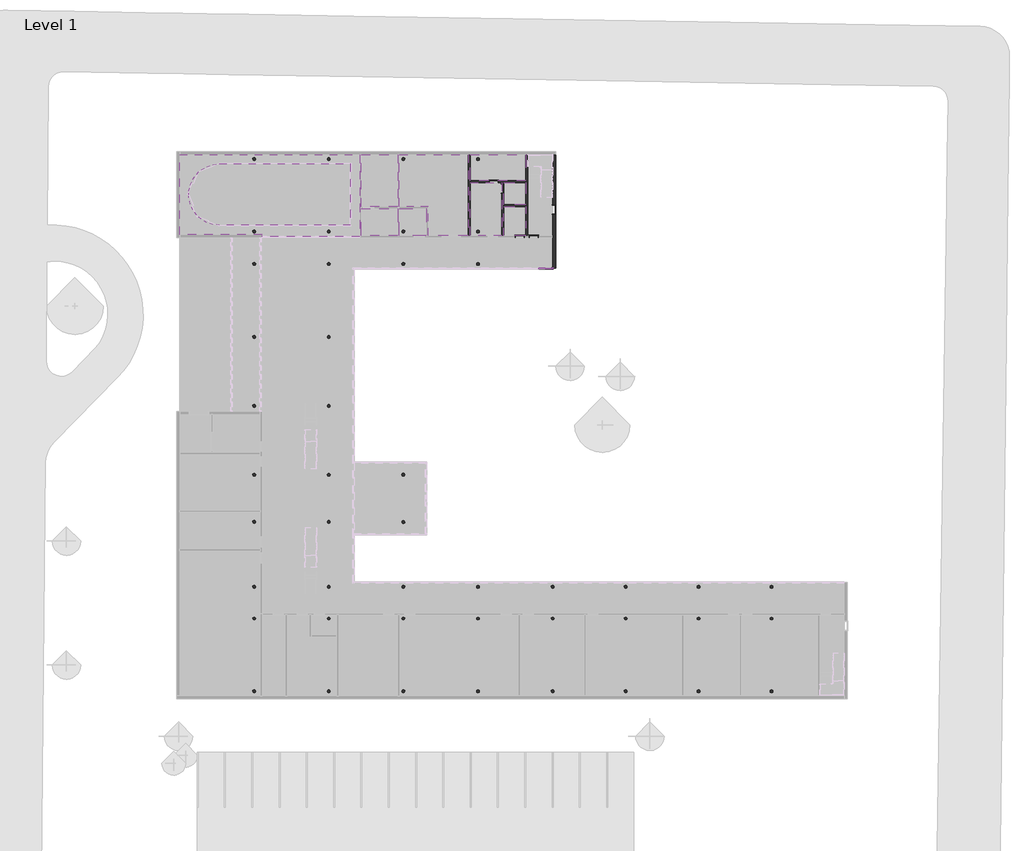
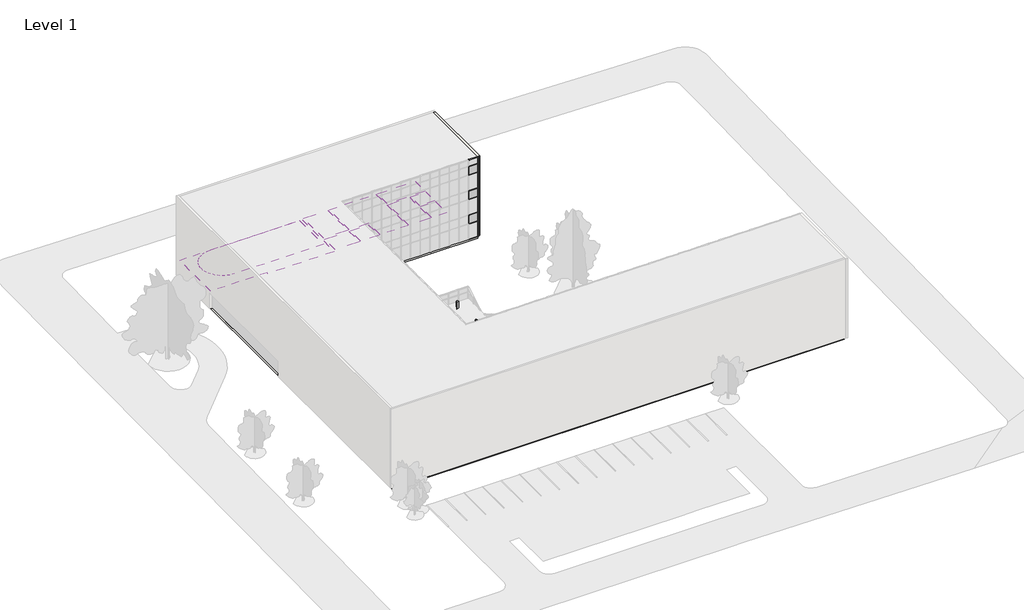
# One storey, part 17 of 23: 46 columns, 15 members, 10 coverings, 6 walls, 5 doors, 3 plates, 1 slab.
"""IFC4 building model written with IfcOpenShell, lengths in millimetres."""

from ifc_helpers import new_model, si_unit, point, frame, frame_2d, origin, origin_with_axes, place, context, project, spatial, polyline, circle_curve, trimmed, segment, composite_curve, outline, extrude, faceted_brep, transform, mapped, element, save
from components import m_concrete_round_column_300mm_df790aaa, door_0915mm_x_2134mm_2aa27b83, door_0915mm_x_2134mm_3fa07aa3, door_0915mm_x_2134mm_b19b82af, quad_corner_mullion_quad_mullion_1_893af7fe, quad_corner_mullion_quad_mullion_1_37ac55ff, quad_corner_mullion_quad_mullion_1_d5379b67, rectangular_mullion_50mm_x_150mm_4d4922e7, rectangular_mullion_50mm_x_150mm_da00b109, system_panel_solid_b23a9ee6

model = new_model("IFC4")

# Units and contexts
model_context = context("Model", 3, world=origin())
ifc_project = project(units=[si_unit("LENGTHUNIT", "METRE", prefix="MILLI")], contexts=[model_context])

# Site, building, storey
site = spatial("IfcSite", under=ifc_project)
building = spatial("IfcBuilding", under=site)
storey = spatial("IfcBuildingStorey", under=building, Name="Level 1", Elevation=0.0)

# Columns
placement = place(None, origin())
element("IfcColumn", 1, ObjectType="M_Concrete-Round-Column : 300mm", at=placement, inside=storey, context=model_context, shape_type="SweptSolid", body=[
    extrude(outline(composite_curve([segment(trimmed(circle_curve(frame_2d((12436.4044804, -1309.4607941)), 150.0), [point((12586.4044804, -1309.4607941))], [point((12286.4044804, -1309.4607941))], False, "CARTESIAN"), True, "CONTINUOUS"), segment(trimmed(circle_curve(frame_2d((12436.4044804, -1309.4607941)), 150.0), [point((12286.4044804, -1309.4607941))], [point((12586.4044804, -1309.4607941))], False, "CARTESIAN"), True, "CONTINUOUS")], self_intersect=False)), origin_with_axes(), (0.0, 0.0, 1.0), 7634.4266858),
])
element("IfcColumn", 2, ObjectType="M_Concrete-Round-Column : 300mm", at=placement, inside=storey, context=model_context, shape_type="SweptSolid", body=[
    extrude(outline(composite_curve([segment(trimmed(circle_curve(frame_2d((12436.4044804, -6063.8611817)), 150.0), [point((12586.4044804, -6063.8611817))], [point((12286.4044804, -6063.8611817))], False, "CARTESIAN"), True, "CONTINUOUS"), segment(trimmed(circle_curve(frame_2d((12436.4044804, -6063.8611817)), 150.0), [point((12286.4044804, -6063.8611817))], [point((12586.4044804, -6063.8611817))], False, "CARTESIAN"), True, "CONTINUOUS")], self_intersect=False)), origin_with_axes(), (0.0, 0.0, 1.0), 7634.4266858),
])
m_concrete_round_column_300mm_shape = m_concrete_round_column_300mm_df790aaa(model_context)
element("IfcColumn", 3, ObjectType="M_Concrete-Round-Column : 300mm", at=placement, inside=storey, context=model_context, shape_type="MappedRepresentation", body=[
    mapped(m_concrete_round_column_300mm_shape, transform((-2539.0909489, 23121.5799804, 0.0), x_axis=(-1.0, 0.0, 0.0), y_axis=(0.0, -1.0, 0.0), z_axis=(0.0, 0.0, 1.0))),
])
element("IfcColumn", 4, ObjectType="M_Concrete-Round-Column : 300mm", at=placement, inside=storey, context=model_context, shape_type="MappedRepresentation", body=[
    mapped(m_concrete_round_column_300mm_shape, transform((-2539.0909489, 12506.7392059, 0.0), x_axis=(-1.0, 0.0, 0.0), y_axis=(0.0, -1.0, 0.0), z_axis=(0.0, 0.0, 1.0))),
])
element("IfcColumn", 5, ObjectType="M_Concrete-Round-Column : 300mm", at=placement, inside=storey, context=model_context, shape_type="MappedRepresentation", body=[
    mapped(m_concrete_round_column_300mm_shape, transform((-2539.0909489, 5598.6392059, 0.0), x_axis=(-1.0, 0.0, 0.0), y_axis=(0.0, -1.0, 0.0), z_axis=(0.0, 0.0, 1.0))),
])
element("IfcColumn", 6, ObjectType="M_Concrete-Round-Column : 300mm", at=placement, inside=storey, context=model_context, shape_type="MappedRepresentation", body=[
    mapped(m_concrete_round_column_300mm_shape, transform((-2539.0909489, -1309.4607941, 0.0), x_axis=(-1.0, 0.0, 0.0), y_axis=(0.0, -1.0, 0.0), z_axis=(0.0, 0.0, 1.0))),
])
element("IfcColumn", 7, ObjectType="M_Concrete-Round-Column : 300mm", at=placement, inside=storey, context=model_context, shape_type="MappedRepresentation", body=[
    mapped(m_concrete_round_column_300mm_shape, transform((-2539.0909489, -6063.8611817, 0.0), x_axis=(-1.0, 0.0, 0.0), y_axis=(0.0, -1.0, 0.0), z_axis=(0.0, 0.0, 1.0))),
])
element("IfcColumn", 8, ObjectType="M_Concrete-Round-Column : 300mm", at=placement, inside=storey, context=model_context, shape_type="MappedRepresentation", body=[
    mapped(m_concrete_round_column_300mm_shape, transform((-2539.0909489, -15754.7006057, 0.0), x_axis=(-1.0, 0.0, 0.0), y_axis=(0.0, -1.0, 0.0), z_axis=(0.0, 0.0, 1.0))),
])
element("IfcColumn", 9, ObjectType="M_Concrete-Round-Column : 300mm", at=placement, inside=storey, context=model_context, shape_type="MappedRepresentation", body=[
    mapped(m_concrete_round_column_300mm_shape, transform((-2539.0909489, 30368.5799804, 0.0), x_axis=(-1.0, 0.0, 0.0), y_axis=(0.0, -1.0, 0.0), z_axis=(0.0, 0.0, 1.0))),
])
element("IfcColumn", 10, ObjectType="M_Concrete-Round-Column : 300mm", at=placement, inside=storey, context=model_context, shape_type="MappedRepresentation", body=[
    mapped(m_concrete_round_column_300mm_shape, transform((-2539.0909489, 19864.8392059, 0.0), x_axis=(-1.0, 0.0, 0.0), y_axis=(0.0, -1.0, 0.0), z_axis=(0.0, 0.0, 1.0))),
])
element("IfcColumn", 11, ObjectType="M_Concrete-Round-Column : 300mm", at=placement, inside=storey, context=model_context, shape_type="MappedRepresentation", body=[
    mapped(m_concrete_round_column_300mm_shape, transform((-2539.0909489, -12582.3615692, 0.0), x_axis=(-1.0, 0.0, 0.0), y_axis=(0.0, -1.0, 0.0), z_axis=(0.0, 0.0, 1.0))),
])
element("IfcColumn", 12, ObjectType="M_Concrete-Round-Column : 300mm", at=placement, inside=storey, context=model_context, shape_type="MappedRepresentation", body=[
    mapped(m_concrete_round_column_300mm_shape, transform((-2539.0909489, -23060.7006057, 0.0), x_axis=(-1.0, 0.0, 0.0), y_axis=(0.0, -1.0, 0.0), z_axis=(0.0, 0.0, 1.0))),
])
element("IfcColumn", 13, ObjectType="M_Concrete-Round-Column : 300mm", at=placement, inside=storey, context=model_context, shape_type="MappedRepresentation", body=[
    mapped(m_concrete_round_column_300mm_shape, transform((4948.6567657, 23121.5799804, 0.0), x_axis=(-1.0, 0.0, 0.0), y_axis=(0.0, -1.0, 0.0), z_axis=(0.0, 0.0, 1.0))),
])
element("IfcColumn", 14, ObjectType="M_Concrete-Round-Column : 300mm", at=placement, inside=storey, context=model_context, shape_type="MappedRepresentation", body=[
    mapped(m_concrete_round_column_300mm_shape, transform((4948.6567657, 12506.7392059, 0.0), x_axis=(-1.0, 0.0, 0.0), y_axis=(0.0, -1.0, 0.0), z_axis=(0.0, 0.0, 1.0))),
])
element("IfcColumn", 15, ObjectType="M_Concrete-Round-Column : 300mm", at=placement, inside=storey, context=model_context, shape_type="MappedRepresentation", body=[
    mapped(m_concrete_round_column_300mm_shape, transform((4948.6567657, 5598.6392059, 0.0), x_axis=(-1.0, 0.0, 0.0), y_axis=(0.0, -1.0, 0.0), z_axis=(0.0, 0.0, 1.0))),
])
element("IfcColumn", 16, ObjectType="M_Concrete-Round-Column : 300mm", at=placement, inside=storey, context=model_context, shape_type="MappedRepresentation", body=[
    mapped(m_concrete_round_column_300mm_shape, transform((4948.6567657, -1309.4607941, 0.0), x_axis=(-1.0, 0.0, 0.0), y_axis=(0.0, -1.0, 0.0), z_axis=(0.0, 0.0, 1.0))),
])
element("IfcColumn", 17, ObjectType="M_Concrete-Round-Column : 300mm", at=placement, inside=storey, context=model_context, shape_type="MappedRepresentation", body=[
    mapped(m_concrete_round_column_300mm_shape, transform((4948.6567657, -6063.8611817, 0.0), x_axis=(-1.0, 0.0, 0.0), y_axis=(0.0, -1.0, 0.0), z_axis=(0.0, 0.0, 1.0))),
])
element("IfcColumn", 18, ObjectType="M_Concrete-Round-Column : 300mm", at=placement, inside=storey, context=model_context, shape_type="MappedRepresentation", body=[
    mapped(m_concrete_round_column_300mm_shape, transform((4948.6567657, -15754.7006057, 0.0), x_axis=(-1.0, 0.0, 0.0), y_axis=(0.0, -1.0, 0.0), z_axis=(0.0, 0.0, 1.0))),
])
element("IfcColumn", 19, ObjectType="M_Concrete-Round-Column : 300mm", at=placement, inside=storey, context=model_context, shape_type="MappedRepresentation", body=[
    mapped(m_concrete_round_column_300mm_shape, transform((4948.6567657, 30368.5799804, 0.0), x_axis=(-1.0, 0.0, 0.0), y_axis=(0.0, -1.0, 0.0), z_axis=(0.0, 0.0, 1.0))),
])
element("IfcColumn", 20, ObjectType="M_Concrete-Round-Column : 300mm", at=placement, inside=storey, context=model_context, shape_type="MappedRepresentation", body=[
    mapped(m_concrete_round_column_300mm_shape, transform((4948.6567657, 19864.8392059, 0.0), x_axis=(-1.0, 0.0, 0.0), y_axis=(0.0, -1.0, 0.0), z_axis=(0.0, 0.0, 1.0))),
])
element("IfcColumn", 21, ObjectType="M_Concrete-Round-Column : 300mm", at=placement, inside=storey, context=model_context, shape_type="MappedRepresentation", body=[
    mapped(m_concrete_round_column_300mm_shape, transform((4948.6567657, -12582.3615692, 0.0), x_axis=(-1.0, 0.0, 0.0), y_axis=(0.0, -1.0, 0.0), z_axis=(0.0, 0.0, 1.0))),
])
element("IfcColumn", 22, ObjectType="M_Concrete-Round-Column : 300mm", at=placement, inside=storey, context=model_context, shape_type="MappedRepresentation", body=[
    mapped(m_concrete_round_column_300mm_shape, transform((4948.6567657, -23060.7006057, 0.0), x_axis=(-1.0, 0.0, 0.0), y_axis=(0.0, -1.0, 0.0), z_axis=(0.0, 0.0, 1.0))),
])
element("IfcColumn", 23, ObjectType="M_Concrete-Round-Column : 300mm", at=placement, inside=storey, context=model_context, shape_type="MappedRepresentation", body=[
    mapped(m_concrete_round_column_300mm_shape, transform((12436.4044804, 23121.5799804, 0.0), x_axis=(-1.0, 0.0, 0.0), y_axis=(0.0, -1.0, 0.0), z_axis=(0.0, 0.0, 1.0))),
])
element("IfcColumn", 24, ObjectType="M_Concrete-Round-Column : 300mm", at=placement, inside=storey, context=model_context, shape_type="MappedRepresentation", body=[
    mapped(m_concrete_round_column_300mm_shape, transform((12436.4044804, -15754.7006057, 0.0), x_axis=(-1.0, 0.0, 0.0), y_axis=(0.0, -1.0, 0.0), z_axis=(0.0, 0.0, 1.0))),
])
element("IfcColumn", 25, ObjectType="M_Concrete-Round-Column : 300mm", at=placement, inside=storey, context=model_context, shape_type="MappedRepresentation", body=[
    mapped(m_concrete_round_column_300mm_shape, transform((12436.4044804, 30368.5799804, 0.0), x_axis=(-1.0, 0.0, 0.0), y_axis=(0.0, -1.0, 0.0), z_axis=(0.0, 0.0, 1.0))),
])
element("IfcColumn", 26, ObjectType="M_Concrete-Round-Column : 300mm", at=placement, inside=storey, context=model_context, shape_type="MappedRepresentation", body=[
    mapped(m_concrete_round_column_300mm_shape, transform((12436.4044804, 19864.8392059, 0.0), x_axis=(-1.0, 0.0, 0.0), y_axis=(0.0, -1.0, 0.0), z_axis=(0.0, 0.0, 1.0))),
])
element("IfcColumn", 27, ObjectType="M_Concrete-Round-Column : 300mm", at=placement, inside=storey, context=model_context, shape_type="MappedRepresentation", body=[
    mapped(m_concrete_round_column_300mm_shape, transform((12436.4044804, -12582.3615692, 0.0), x_axis=(-1.0, 0.0, 0.0), y_axis=(0.0, -1.0, 0.0), z_axis=(0.0, 0.0, 1.0))),
])
element("IfcColumn", 28, ObjectType="M_Concrete-Round-Column : 300mm", at=placement, inside=storey, context=model_context, shape_type="MappedRepresentation", body=[
    mapped(m_concrete_round_column_300mm_shape, transform((12436.4044804, -23060.7006057, 0.0), x_axis=(-1.0, 0.0, 0.0), y_axis=(0.0, -1.0, 0.0), z_axis=(0.0, 0.0, 1.0))),
])
element("IfcColumn", 29, ObjectType="M_Concrete-Round-Column : 300mm", at=placement, inside=storey, context=model_context, shape_type="MappedRepresentation", body=[
    mapped(m_concrete_round_column_300mm_shape, transform((19924.152195, 23121.5799804, 0.0), x_axis=(-1.0, 0.0, 0.0), y_axis=(0.0, -1.0, 0.0), z_axis=(0.0, 0.0, 1.0))),
])
element("IfcColumn", 30, ObjectType="M_Concrete-Round-Column : 300mm", at=placement, inside=storey, context=model_context, shape_type="MappedRepresentation", body=[
    mapped(m_concrete_round_column_300mm_shape, transform((19924.152195, -15754.7006057, 0.0), x_axis=(-1.0, 0.0, 0.0), y_axis=(0.0, -1.0, 0.0), z_axis=(0.0, 0.0, 1.0))),
])
element("IfcColumn", 31, ObjectType="M_Concrete-Round-Column : 300mm", at=placement, inside=storey, context=model_context, shape_type="MappedRepresentation", body=[
    mapped(m_concrete_round_column_300mm_shape, transform((19924.152195, 30368.5799804, 0.0), x_axis=(-1.0, 0.0, 0.0), y_axis=(0.0, -1.0, 0.0), z_axis=(0.0, 0.0, 1.0))),
])
element("IfcColumn", 32, ObjectType="M_Concrete-Round-Column : 300mm", at=placement, inside=storey, context=model_context, shape_type="MappedRepresentation", body=[
    mapped(m_concrete_round_column_300mm_shape, transform((19924.152195, 19864.8392059, 0.0), x_axis=(-1.0, 0.0, 0.0), y_axis=(0.0, -1.0, 0.0), z_axis=(0.0, 0.0, 1.0))),
])
element("IfcColumn", 33, ObjectType="M_Concrete-Round-Column : 300mm", at=placement, inside=storey, context=model_context, shape_type="MappedRepresentation", body=[
    mapped(m_concrete_round_column_300mm_shape, transform((19924.152195, -12582.3615692, 0.0), x_axis=(-1.0, 0.0, 0.0), y_axis=(0.0, -1.0, 0.0), z_axis=(0.0, 0.0, 1.0))),
])
element("IfcColumn", 34, ObjectType="M_Concrete-Round-Column : 300mm", at=placement, inside=storey, context=model_context, shape_type="MappedRepresentation", body=[
    mapped(m_concrete_round_column_300mm_shape, transform((19924.152195, -23060.7006057, 0.0), x_axis=(-1.0, 0.0, 0.0), y_axis=(0.0, -1.0, 0.0), z_axis=(0.0, 0.0, 1.0))),
])
element("IfcColumn", 35, ObjectType="M_Concrete-Round-Column : 300mm", at=placement, inside=storey, context=model_context, shape_type="MappedRepresentation", body=[
    mapped(m_concrete_round_column_300mm_shape, transform((27411.8999097, -15754.7006057, 0.0), x_axis=(-1.0, 0.0, 0.0), y_axis=(0.0, -1.0, 0.0), z_axis=(0.0, 0.0, 1.0))),
])
element("IfcColumn", 36, ObjectType="M_Concrete-Round-Column : 300mm", at=placement, inside=storey, context=model_context, shape_type="MappedRepresentation", body=[
    mapped(m_concrete_round_column_300mm_shape, transform((27411.8999097, -12582.3615692, 0.0), x_axis=(-1.0, 0.0, 0.0), y_axis=(0.0, -1.0, 0.0), z_axis=(0.0, 0.0, 1.0))),
])
element("IfcColumn", 37, ObjectType="M_Concrete-Round-Column : 300mm", at=placement, inside=storey, context=model_context, shape_type="MappedRepresentation", body=[
    mapped(m_concrete_round_column_300mm_shape, transform((27411.8999097, -23060.7006057, 0.0), x_axis=(-1.0, 0.0, 0.0), y_axis=(0.0, -1.0, 0.0), z_axis=(0.0, 0.0, 1.0))),
])
element("IfcColumn", 38, ObjectType="M_Concrete-Round-Column : 300mm", at=placement, inside=storey, context=model_context, shape_type="MappedRepresentation", body=[
    mapped(m_concrete_round_column_300mm_shape, transform((34733.7042668, -15754.7006057, 0.0), x_axis=(-1.0, 0.0, 0.0), y_axis=(0.0, -1.0, 0.0), z_axis=(0.0, 0.0, 1.0))),
])
element("IfcColumn", 39, ObjectType="M_Concrete-Round-Column : 300mm", at=placement, inside=storey, context=model_context, shape_type="MappedRepresentation", body=[
    mapped(m_concrete_round_column_300mm_shape, transform((34733.7042668, -12582.3615692, 0.0), x_axis=(-1.0, 0.0, 0.0), y_axis=(0.0, -1.0, 0.0), z_axis=(0.0, 0.0, 1.0))),
])
element("IfcColumn", 40, ObjectType="M_Concrete-Round-Column : 300mm", at=placement, inside=storey, context=model_context, shape_type="MappedRepresentation", body=[
    mapped(m_concrete_round_column_300mm_shape, transform((34733.7042668, -23060.7006057, 0.0), x_axis=(-1.0, 0.0, 0.0), y_axis=(0.0, -1.0, 0.0), z_axis=(0.0, 0.0, 1.0))),
])
element("IfcColumn", 41, ObjectType="M_Concrete-Round-Column : 300mm", at=placement, inside=storey, context=model_context, shape_type="MappedRepresentation", body=[
    mapped(m_concrete_round_column_300mm_shape, transform((42055.5086239, -15754.7006057, 0.0), x_axis=(-1.0, 0.0, 0.0), y_axis=(0.0, -1.0, 0.0), z_axis=(0.0, 0.0, 1.0))),
])
element("IfcColumn", 42, ObjectType="M_Concrete-Round-Column : 300mm", at=placement, inside=storey, context=model_context, shape_type="MappedRepresentation", body=[
    mapped(m_concrete_round_column_300mm_shape, transform((42055.5086239, -12582.3615692, 0.0), x_axis=(-1.0, 0.0, 0.0), y_axis=(0.0, -1.0, 0.0), z_axis=(0.0, 0.0, 1.0))),
])
element("IfcColumn", 43, ObjectType="M_Concrete-Round-Column : 300mm", at=placement, inside=storey, context=model_context, shape_type="MappedRepresentation", body=[
    mapped(m_concrete_round_column_300mm_shape, transform((42055.5086239, -23060.7006057, 0.0), x_axis=(-1.0, 0.0, 0.0), y_axis=(0.0, -1.0, 0.0), z_axis=(0.0, 0.0, 1.0))),
])
element("IfcColumn", 44, ObjectType="M_Concrete-Round-Column : 300mm", at=placement, inside=storey, context=model_context, shape_type="MappedRepresentation", body=[
    mapped(m_concrete_round_column_300mm_shape, transform((49377.3129811, -15754.7006057, 0.0), x_axis=(-1.0, 0.0, 0.0), y_axis=(0.0, -1.0, 0.0), z_axis=(0.0, 0.0, 1.0))),
])
element("IfcColumn", 45, ObjectType="M_Concrete-Round-Column : 300mm", at=placement, inside=storey, context=model_context, shape_type="MappedRepresentation", body=[
    mapped(m_concrete_round_column_300mm_shape, transform((49377.3129811, -12582.3615692, 0.0), x_axis=(-1.0, 0.0, 0.0), y_axis=(0.0, -1.0, 0.0), z_axis=(0.0, 0.0, 1.0))),
])
element("IfcColumn", 46, ObjectType="M_Concrete-Round-Column : 300mm", at=placement, inside=storey, context=model_context, shape_type="MappedRepresentation", body=[
    mapped(m_concrete_round_column_300mm_shape, transform((49377.3129811, -23060.7006057, 0.0), x_axis=(-1.0, 0.0, 0.0), y_axis=(0.0, -1.0, 0.0), z_axis=(0.0, 0.0, 1.0))),
])

# Coverings
element("IfcCovering", 47, ObjectType="600 x 1200mm grid", at=placement, inside=storey, context=model_context, shape_type="SweptSolid", body=[
    extrude(outline(polyline([(8231.5010724, 30818.5799804), (11847.5010724, 30818.5799804), (11847.5010724, 25612.5799804), (8231.5010724, 25612.5799804), (8231.5010724, 30818.5799804)])), frame((0.0, 0.0, 2600.0), z_axis=(0.0, 0.0, 1.0), x_axis=(1.0, 0.0, 0.0)), (0.0, 0.0, 1.0), 52.0),
])
element("IfcCovering", 48, ObjectType="600 x 1200mm grid", at=placement, inside=storey, context=model_context, shape_type="SweptSolid", body=[
    extrude(outline(polyline([(11847.5010724, 25428.5799804), (11847.5010724, 22704.5799804), (8231.5010724, 22704.5799804), (8231.5010724, 25428.5799804), (11847.5010724, 25428.5799804)])), frame((0.0, 0.0, 2600.0), z_axis=(0.0, 0.0, 1.0), x_axis=(1.0, 0.0, 0.0)), (0.0, 0.0, 1.0), 52.0),
])
element("IfcCovering", 49, ObjectType="600 x 1200mm grid", at=placement, inside=storey, context=model_context, shape_type="SweptSolid", body=[
    extrude(outline(polyline([(14731.5010724, 25428.5799804), (14731.5010724, 22704.5799804), (12031.5010724, 22704.5799804), (12031.5010724, 25428.5799804), (14731.5010724, 25428.5799804)])), frame((0.0, 0.0, 2600.0), z_axis=(0.0, 0.0, 1.0), x_axis=(1.0, 0.0, 0.0)), (0.0, 0.0, 1.0), 52.0),
])
element("IfcCovering", 50, ObjectType="600 x 1200mm grid", at=placement, inside=storey, context=model_context, shape_type="SweptSolid", body=[
    extrude(outline(polyline([(24721.8999097, 22704.5799804), (22490.8999097, 22704.5799804), (22490.8999097, 25612.5799804), (24721.8999097, 25612.5799804), (24721.8999097, 22704.5799804)])), frame((0.0, 0.0, 2600.0), z_axis=(0.0, 0.0, 1.0), x_axis=(1.0, 0.0, 0.0)), (0.0, 0.0, 1.0), 52.0),
])
element("IfcCovering", 51, ObjectType="600 x 600mm grid", at=placement, inside=storey, context=model_context, shape_type="SweptSolid", body=[
    extrude(outline(polyline([(12031.5010724, 30818.5799804), (18947.5010724, 30818.5799804), (18947.5010724, 22704.5799804), (14915.5010724, 22704.5799804), (14915.5010724, 25612.5799804), (12031.5010724, 25612.5799804), (12031.5010724, 30818.5799804)])), frame((0.0, 0.0, 2600.0), z_axis=(0.0, 0.0, 1.0), x_axis=(1.0, 0.0, 0.0)), (0.0, 0.0, 1.0), 52.0),
])
element("IfcCovering", 52, ObjectType="600 x 600mm grid", at=placement, inside=storey, context=model_context, shape_type="SweptSolid", body=[
    extrude(outline(polyline([(22306.8999097, 22704.5799804), (19131.5010724, 22704.5799804), (19131.5010724, 28036.5799804), (22306.8999097, 28036.5799804), (22306.8999097, 22704.5799804)])), frame((0.0, 0.0, 2600.0), z_axis=(0.0, 0.0, 1.0), x_axis=(1.0, 0.0, 0.0)), (0.0, 0.0, 1.0), 52.0),
])
element("IfcCovering", 53, ObjectType="600 x 600mm grid", at=placement, inside=storey, context=model_context, shape_type="SweptSolid", body=[
    extrude(outline(polyline([(24721.8999097, 28036.5799804), (24721.8999097, 25796.5799804), (22490.8999097, 25796.5799804), (22490.8999097, 28036.5799804), (24721.8999097, 28036.5799804)])), frame((0.0, 0.0, 2600.0), z_axis=(0.0, 0.0, 1.0), x_axis=(1.0, 0.0, 0.0)), (0.0, 0.0, 1.0), 52.0),
])
element("IfcCovering", 54, ObjectType="600 x 600mm grid", at=placement, inside=storey, context=model_context, shape_type="SweptSolid", body=[
    extrude(outline(composite_curve([segment(polyline([(-6028.8386635, 29898.5799804), (7127.5010724, 29898.5799804), (7127.5010724, 23742.5799804), (-6028.8386635, 23742.5799804)]), True, "CONTINUOUS"), segment(trimmed(circle_curve(frame_2d((-6028.8386635, 26820.5799804)), 3078.0), [point((-6028.8386635, 23742.5799804))], [point((-6028.8386635, 29898.5799804))], False, "CARTESIAN"), True, "CONTINUOUS")], self_intersect=False)), frame((0.0, 0.0, 3200.0), z_axis=(0.0, 0.0, 1.0), x_axis=(1.0, 0.0, 0.0)), (0.0, 0.0, 1.0), 52.0),
])
element("IfcCovering", 55, ObjectType="GWB on Mtl Stud", at=placement, inside=storey, context=model_context, shape_type="SweptSolid", body=[
    extrude(outline(polyline([(19131.5010724, 30818.5799804), (24721.8999097, 30818.5799804), (24721.8999097, 28220.5799804), (19131.5010724, 28220.5799804), (19131.5010724, 30818.5799804)])), frame((0.0, 0.0, 2600.0), z_axis=(0.0, 0.0, 1.0), x_axis=(1.0, 0.0, 0.0)), (0.0, 0.0, 1.0), 57.0),
])
element("IfcCovering", 56, ObjectType="GWB on Mtl Stud", at=placement, inside=storey, context=model_context, shape_type="SweptSolid", body=[
    extrude(outline(polyline([(-10026.8386635, 22822.5799804), (-10026.8386635, 30818.5799804), (8047.5010724, 30818.5799804), (8047.5010724, 22595.5799804), (-1728.8386635, 22595.5799804), (-1728.8386635, 22822.5799804), (-10026.8386635, 22822.5799804)]), holes=[composite_curve([segment(trimmed(circle_curve(frame_2d((-6028.8386635, 26820.5799804)), 2778.0), [point((-6028.8386635, 29598.5799804))], [point((-6028.8386635, 24042.5799804))], True, "CARTESIAN"), True, "CONTINUOUS"), segment(polyline([(-6028.8386635, 24042.5799804), (6827.5010724, 24042.5799804), (6827.5010724, 29598.5799804), (-6028.8386635, 29598.5799804)]), True, "CONTINUOUS")], self_intersect=False)]), frame((0.0, 0.0, 2440.0), z_axis=(0.0, 0.0, 1.0), x_axis=(1.0, 0.0, 0.0)), (0.0, 0.0, 1.0), 57.0),
])

# Doors
door_0915mm_x_2134mm_shape = door_0915mm_x_2134mm_2aa27b83(model_context)
element("IfcDoor", 57, ObjectType="m-doors-hm-f1-a : 0915mm x 2134mm", at=placement, inside=storey, context=model_context, shape_type="MappedRepresentation", body=[
    mapped(door_0915mm_x_2134mm_shape, transform((22573.8999097, 27428.5799804, 0.0), x_axis=(0.0, -1.0, 0.0), y_axis=(1.0, 0.0, 0.0), z_axis=(0.0, 0.0, 1.0))),
])
element("IfcDoor", 58, ObjectType="m-doors-hm-f1-a : 0915mm x 2134mm", at=placement, inside=storey, context=model_context, shape_type="MappedRepresentation", body=[
    mapped(door_0915mm_x_2134mm_shape, transform((21498.8999097, 28303.5799804, 0.0), x_axis=(1.0, 0.0, 0.0), y_axis=(0.0, 1.0, 0.0), z_axis=(0.0, 0.0, 1.0))),
])
element("IfcDoor", 59, ObjectType="m-doors-hm-f1-a : 0915mm x 2134mm", at=placement, inside=storey, context=model_context, shape_type="MappedRepresentation", body=[
    mapped(door_0915mm_x_2134mm_shape, transform((25516.8999097, 22787.5799804, 0.0), x_axis=(1.0, 0.0, 0.0), y_axis=(0.0, 1.0, 0.0), z_axis=(0.0, 0.0, 1.0))),
])
door_0915mm_x_2134mm_2_shape = door_0915mm_x_2134mm_3fa07aa3(model_context)
element("IfcDoor", 60, ObjectType="m-doors-hm-f1-a : 0915mm x 2134mm", at=placement, inside=storey, context=model_context, shape_type="MappedRepresentation", body=[
    mapped(door_0915mm_x_2134mm_2_shape, transform((24106.8999097, 22787.5799804, 0.0), x_axis=(-1.0, 0.0, 0.0), y_axis=(0.0, -1.0, 0.0), z_axis=(0.0, 0.0, 1.0))),
])
door_0915mm_x_2134mm_3_shape = door_0915mm_x_2134mm_b19b82af(model_context)
element("IfcDoor", 61, ObjectType="m-doors-hm-f1-a : 0915mm x 2134mm", at=placement, inside=storey, context=model_context, shape_type="MappedRepresentation", body=[
    mapped(door_0915mm_x_2134mm_3_shape, transform((27737.8999097, 25312.5799804, 0.0), x_axis=(0.0, -1.0, 0.0), y_axis=(1.0, 0.0, 0.0), z_axis=(0.0, 0.0, 1.0))),
])

# Members
quad_corner_mullion_quad_mullion_1_shape = quad_corner_mullion_quad_mullion_1_893af7fe(model_context)
element("IfcMember", 62, ObjectType="Quad Corner Mullion : Quad Mullion 1", at=placement, inside=storey, context=model_context, shape_type="MappedRepresentation", body=[
    mapped(quad_corner_mullion_quad_mullion_1_shape, transform((27411.8999097, 19414.8392059, 11400.0), x_axis=(1.0, 0.0, 0.0), y_axis=(0.0, -1.0, 0.0), z_axis=(0.0, 0.0, -1.0))),
])
quad_corner_mullion_quad_mullion_1_2_shape = quad_corner_mullion_quad_mullion_1_37ac55ff(model_context)
element("IfcMember", 63, ObjectType="Quad Corner Mullion : Quad Mullion 1", at=placement, inside=storey, context=model_context, shape_type="MappedRepresentation", body=[
    mapped(quad_corner_mullion_quad_mullion_1_2_shape, transform((27411.8999097, 19414.8392059, 3800.0), x_axis=(1.0, 0.0, 0.0), y_axis=(0.0, -1.0, 0.0), z_axis=(0.0, 0.0, -1.0))),
])
element("IfcMember", 64, ObjectType="Quad Corner Mullion : Quad Mullion 1", at=placement, inside=storey, context=model_context, shape_type="MappedRepresentation", body=[
    mapped(quad_corner_mullion_quad_mullion_1_2_shape, transform((27411.8999097, 19414.8392059, 7600.0), x_axis=(1.0, 0.0, 0.0), y_axis=(0.0, -1.0, 0.0), z_axis=(0.0, 0.0, -1.0))),
])
quad_corner_mullion_quad_mullion_1_3_shape = quad_corner_mullion_quad_mullion_1_d5379b67(model_context)
element("IfcMember", 65, ObjectType="Quad Corner Mullion : Quad Mullion 1", at=placement, inside=storey, context=model_context, shape_type="MappedRepresentation", body=[
    mapped(quad_corner_mullion_quad_mullion_1_3_shape, transform((27411.8999097, 19414.8392059, 10040.0), x_axis=(1.0, 0.0, 0.0), y_axis=(0.0, -1.0, 0.0), z_axis=(0.0, 0.0, -1.0))),
])
element("IfcMember", 66, ObjectType="Quad Corner Mullion : Quad Mullion 1", at=placement, inside=storey, context=model_context, shape_type="MappedRepresentation", body=[
    mapped(quad_corner_mullion_quad_mullion_1_3_shape, transform((27411.8999097, 19414.8392059, 6240.0), x_axis=(1.0, 0.0, 0.0), y_axis=(0.0, -1.0, 0.0), z_axis=(0.0, 0.0, -1.0))),
])
element("IfcMember", 67, ObjectType="Quad Corner Mullion : Quad Mullion 1", at=placement, inside=storey, context=model_context, shape_type="MappedRepresentation", body=[
    mapped(quad_corner_mullion_quad_mullion_1_3_shape, transform((27411.8999097, 19414.8392059, 2440.0), x_axis=(1.0, 0.0, 0.0), y_axis=(0.0, -1.0, 0.0), z_axis=(0.0, 0.0, -1.0))),
])
element("IfcMember", 68, ObjectType="Quad Corner Mullion : Quad Mullion 1", at=placement, inside=storey, context=model_context, shape_type="MappedRepresentation", body=[
    mapped(quad_corner_mullion_quad_mullion_1_2_shape, transform((27411.8999097, 19414.8392059, 0.0), x_axis=(1.0, 0.0, 0.0), y_axis=(0.0, -1.0, 0.0), z_axis=(0.0, 0.0, -1.0))),
])
rectangular_mullion_50mm_x_150mm_shape = rectangular_mullion_50mm_x_150mm_4d4922e7(model_context)
element("IfcMember", 69, ObjectType="Rectangular Mullion : 50mm x 150mm", at=placement, inside=storey, context=model_context, shape_type="MappedRepresentation", body=[
    mapped(rectangular_mullion_50mm_x_150mm_shape, transform((27336.8999097, 19414.8392059, 12400.0), x_axis=(0.0, 0.0, 1.0), y_axis=(0.0, -1.0, 0.0), z_axis=(1.0, 0.0, 0.0))),
])
element("IfcMember", 70, ObjectType="Rectangular Mullion : 50mm x 150mm", at=placement, inside=storey, context=model_context, shape_type="MappedRepresentation", body=[
    mapped(rectangular_mullion_50mm_x_150mm_shape, transform((26010.871421, 19414.8392059, 0.0), x_axis=(0.0, 0.0, -1.0), y_axis=(0.0, -1.0, 0.0), z_axis=(-1.0, 0.0, 0.0))),
])
rectangular_mullion_50mm_x_150mm_2_shape = rectangular_mullion_50mm_x_150mm_da00b109(model_context)
element("IfcMember", 71, ObjectType="Rectangular Mullion : 50mm x 150mm", at=placement, inside=storey, context=model_context, shape_type="MappedRepresentation", body=[
    mapped(rectangular_mullion_50mm_x_150mm_2_shape, transform((27336.8999097, 19414.8392059, 3800.0), x_axis=(0.0, 0.0, 1.0), y_axis=(0.0, -1.0, 0.0), z_axis=(1.0, 0.0, 0.0))),
])
element("IfcMember", 72, ObjectType="Rectangular Mullion : 50mm x 150mm", at=placement, inside=storey, context=model_context, shape_type="MappedRepresentation", body=[
    mapped(rectangular_mullion_50mm_x_150mm_2_shape, transform((27336.8999097, 19414.8392059, 7600.0), x_axis=(0.0, 0.0, 1.0), y_axis=(0.0, -1.0, 0.0), z_axis=(1.0, 0.0, 0.0))),
])
element("IfcMember", 73, ObjectType="Rectangular Mullion : 50mm x 150mm", at=placement, inside=storey, context=model_context, shape_type="MappedRepresentation", body=[
    mapped(rectangular_mullion_50mm_x_150mm_2_shape, transform((27336.8999097, 19414.8392059, 11400.0), x_axis=(0.0, 0.0, 1.0), y_axis=(0.0, -1.0, 0.0), z_axis=(1.0, 0.0, 0.0))),
])
element("IfcMember", 74, ObjectType="Rectangular Mullion : 50mm x 150mm", at=placement, inside=storey, context=model_context, shape_type="MappedRepresentation", body=[
    mapped(rectangular_mullion_50mm_x_150mm_2_shape, transform((27336.8999097, 19414.8392059, 10040.0), x_axis=(0.0, 0.0, 1.0), y_axis=(0.0, -1.0, 0.0), z_axis=(1.0, 0.0, 0.0))),
])
element("IfcMember", 75, ObjectType="Rectangular Mullion : 50mm x 150mm", at=placement, inside=storey, context=model_context, shape_type="MappedRepresentation", body=[
    mapped(rectangular_mullion_50mm_x_150mm_2_shape, transform((27336.8999097, 19414.8392059, 6240.0), x_axis=(0.0, 0.0, 1.0), y_axis=(0.0, -1.0, 0.0), z_axis=(1.0, 0.0, 0.0))),
])
element("IfcMember", 76, ObjectType="Rectangular Mullion : 50mm x 150mm", at=placement, inside=storey, context=model_context, shape_type="MappedRepresentation", body=[
    mapped(rectangular_mullion_50mm_x_150mm_2_shape, transform((27336.8999097, 19414.8392059, 2440.0), x_axis=(0.0, 0.0, 1.0), y_axis=(0.0, -1.0, 0.0), z_axis=(1.0, 0.0, 0.0))),
])

# Plates
system_panel_solid_shape = system_panel_solid_b23a9ee6(model_context)
element("IfcPlate", 77, ObjectType="System Panel : Solid", at=placement, inside=storey, context=model_context, shape_type="MappedRepresentation", body=[
    mapped(system_panel_solid_shape, transform((26673.8856653, 19414.8392059, 10065.0), x_axis=(1.0, 0.0, 0.0), y_axis=(0.0, 1.0, 0.0), z_axis=(0.0, 0.0, 1.0))),
])
element("IfcPlate", 78, ObjectType="System Panel : Solid", at=placement, inside=storey, context=model_context, shape_type="MappedRepresentation", body=[
    mapped(system_panel_solid_shape, transform((26673.8856653, 19414.8392059, 6265.0), x_axis=(1.0, 0.0, 0.0), y_axis=(0.0, 1.0, 0.0), z_axis=(0.0, 0.0, 1.0))),
])
element("IfcPlate", 79, ObjectType="System Panel : Solid", at=placement, inside=storey, context=model_context, shape_type="MappedRepresentation", body=[
    mapped(system_panel_solid_shape, transform((26673.8856653, 19414.8392059, 2465.0), x_axis=(1.0, 0.0, 0.0), y_axis=(0.0, 1.0, 0.0), z_axis=(0.0, 0.0, 1.0))),
])

# Slab
element("IfcSlab", 80, ObjectType="Pad 1", at=placement, inside=storey, context=model_context, shape_type="SweptSolid", body=[
    extrude(outline(polyline([(27411.8999097, 30818.5799804), (27411.8999097, 19414.8392059), (7447.5010724, 19414.8392059), (7447.5010724, -89.4607941), (14709.0902051, -89.4607941), (14709.0902051, -7283.8611817), (7447.5010724, -7283.8611817), (7447.5010724, -12132.3615692), (56699.1173382, -12132.3615692), (56699.1173382, -23510.7006057), (-10026.8386635, -23510.7006057), (-10026.8386635, 30818.5799804), (27411.8999097, 30818.5799804)])), frame((0.0, 0.0, -304.8), z_axis=(0.0, 0.0, 1.0), x_axis=(1.0, 0.0, 0.0)), (0.0, 0.0, 1.0), 304.8),
])

# Walls
element("IfcWall", 81, ObjectType="P6 184mm - 1HR - ULC #W453", at=placement, inside=storey, context=model_context, shape_type="Brep", body=[
    faceted_brep([(19131.5010724, 22704.5799804, 0.0), (19131.5010724, 28036.5799804, 0.0), (19131.5010724, 28220.5799804, 0.0), (19131.5010724, 30818.5799804, 0.0), (19131.5010724, 30818.5799804, 3550.0), (19131.5010724, 28220.5799804, 3550.0), (19131.5010724, 28036.5799804, 3550.0), (19131.5010724, 22704.5799804, 3550.0), (18947.5010724, 22704.5799804, 0.0), (18947.5010724, 22704.5799804, 3550.0), (18947.5010724, 30818.5799804, 3550.0), (18947.5010724, 30818.5799804, 0.0)], [[[0, 1, 2, 3, 4, 5, 6, 7]], [[8, 9, 10, 11]], [[3, 2, 1, 0, 8, 11]], [[7, 6, 5, 4, 10, 9]], [[4, 3, 11, 10]], [[0, 7, 9, 8]]]),
])
element("IfcWall", 82, ObjectType="P6 184mm - 1HR - ULC #W453", at=placement, inside=storey, context=model_context, shape_type="Brep", body=[
    faceted_brep([(24721.8999097, 28036.5799804, 3550.0), (22490.8999097, 28036.5799804, 3550.0), (22306.8999097, 28036.5799804, 3550.0), (19131.5010724, 28036.5799804, 3550.0), (19131.5010724, 28036.5799804, 0.0), (20991.3999097, 28036.5799804, 0.0), (20991.3999097, 28036.5799804, 2184.0), (22006.3999097, 28036.5799804, 2184.0), (22006.3999097, 28036.5799804, 0.0), (22306.8999097, 28036.5799804, 0.0), (22490.8999097, 28036.5799804, 0.0), (24721.8999097, 28036.5799804, 0.0), (19131.5010724, 28220.5799804, 3550.0), (24721.8999097, 28220.5799804, 3550.0), (24721.8999097, 28220.5799804, 0.0), (22006.3999097, 28220.5799804, 0.0), (22006.3999097, 28220.5799804, 2184.0), (20991.3999097, 28220.5799804, 2184.0), (20991.3999097, 28220.5799804, 0.0), (19131.5010724, 28220.5799804, 0.0)], [[[0, 1, 2, 3, 4, 5, 6, 7, 8, 9, 10, 11]], [[12, 13, 14, 15, 16, 17, 18, 19]], [[4, 19, 18, 5]], [[14, 11, 10, 9, 8, 15]], [[3, 2, 1, 0, 13, 12]], [[4, 3, 12, 19]], [[0, 11, 14, 13]], [[7, 16, 15, 8]], [[16, 7, 6, 17]], [[17, 6, 5, 18]]]),
])
element("IfcWall", 83, ObjectType="P6 184mm - 1HR - ULC #W453", at=placement, inside=storey, context=model_context, shape_type="Brep", body=[
    faceted_brep([(22306.8999097, 22704.5799804, 3550.0), (22306.8999097, 28036.5799804, 3550.0), (22306.8999097, 28036.5799804, 0.0), (22306.8999097, 27936.0799804, 0.0), (22306.8999097, 27936.0799804, 2184.0), (22306.8999097, 26921.0799804, 2184.0), (22306.8999097, 26921.0799804, 0.0), (22306.8999097, 22704.5799804, 0.0), (22490.8999097, 28036.5799804, 3550.0), (22490.8999097, 25796.5799804, 3550.0), (22490.8999097, 25612.5799804, 3550.0), (22490.8999097, 22704.5799804, 3550.0), (22490.8999097, 22704.5799804, 0.0), (22490.8999097, 25612.5799804, 0.0), (22490.8999097, 25796.5799804, 0.0), (22490.8999097, 26921.0799804, 0.0), (22490.8999097, 26921.0799804, 2184.0), (22490.8999097, 27936.0799804, 2184.0), (22490.8999097, 27936.0799804, 0.0), (22490.8999097, 28036.5799804, 0.0)], [[[0, 1, 2, 3, 4, 5, 6, 7]], [[8, 9, 10, 11, 12, 13, 14, 15, 16, 17, 18, 19]], [[2, 19, 18, 3]], [[12, 7, 6, 15, 14, 13]], [[1, 0, 11, 10, 9, 8]], [[2, 1, 8, 19]], [[0, 7, 12, 11]], [[5, 16, 15, 6]], [[16, 5, 4, 17]], [[17, 4, 3, 18]]]),
])
element("IfcWall", 84, ObjectType="P6 184mm - 1HR - ULC #W453", at=placement, inside=storey, context=model_context, shape_type="SweptSolid", body=[
    extrude(outline(polyline([(22490.8999097, 25796.5799804), (24721.8999097, 25796.5799804), (24721.8999097, 25612.5799804), (22490.8999097, 25612.5799804), (22490.8999097, 25796.5799804)])), origin_with_axes(), (0.0, 0.0, 1.0), 3550.0),
])
element("IfcWall", 85, ObjectType="Exterior - EIFS on Mtl Stud", at=placement, inside=storey, context=model_context, shape_type="Brep", body=[
    faceted_brep([(27713.8999097, 30818.5799804, 12400.0), (27713.8999097, 19414.8392059, 12400.0), (27713.8999097, 19414.8392059, 0.0), (27713.8999097, 24805.0799804, 0.0), (27713.8999097, 24805.0799804, 2184.0), (27713.8999097, 25820.0799804, 2184.0), (27713.8999097, 25820.0799804, 0.0), (27713.8999097, 30818.5799804, 0.0), (27411.8999097, 19414.8392059, 12400.0), (27411.8999097, 30818.5799804, 12400.0), (27411.8999097, 30818.5799804, 0.0), (27411.8999097, 25820.0799804, 0.0), (27411.8999097, 25820.0799804, 2184.0), (27411.8999097, 24805.0799804, 2184.0), (27411.8999097, 24805.0799804, 0.0), (27411.8999097, 22704.5799804, 0.0), (27411.8999097, 22520.5799804, 0.0), (27411.8999097, 19414.8392059, 0.0)], [[[0, 1, 2, 3, 4, 5, 6, 7]], [[8, 9, 10, 11, 12, 13, 14, 15, 16, 17]], [[2, 17, 16, 15, 14, 3]], [[10, 7, 6, 11]], [[1, 0, 9, 8]], [[2, 1, 8, 17]], [[0, 7, 10, 9]], [[13, 4, 3, 14]], [[4, 13, 12, 5]], [[5, 12, 11, 6]]]),
])
element("IfcWall", 86, ObjectType="P28 190mm CMU 2 HR", at=placement, inside=storey, context=model_context, shape_type="Brep", body=[
    faceted_brep([(24721.8999097, 30818.5799804, 0.0), (24721.8999097, 28220.5799804, 0.0), (24721.8999097, 28036.5799804, 0.0), (24721.8999097, 25796.5799804, 0.0), (24721.8999097, 25612.5799804, 0.0), (24721.8999097, 22704.5799804, 0.0), (24721.8999097, 22704.5799804, 3550.0), (24721.8999097, 25612.5799804, 3550.0), (24721.8999097, 25796.5799804, 3550.0), (24721.8999097, 28036.5799804, 3550.0), (24721.8999097, 28220.5799804, 3550.0), (24721.8999097, 30818.5799804, 3550.0), (24911.8999097, 30818.5799804, 0.0), (24911.8999097, 30818.5799804, 3550.0), (24911.8999097, 22704.5799804, 3550.0), (24911.8999097, 22704.5799804, 0.0)], [[[0, 1, 2, 3, 4, 5, 6, 7, 8, 9, 10, 11]], [[12, 13, 14, 15]], [[5, 4, 3, 2, 1, 0, 12, 15]], [[11, 10, 9, 8, 7, 6, 14, 13]], [[0, 11, 13, 12]], [[6, 5, 15, 14]]]),
])

save(model, "model.ifc")
